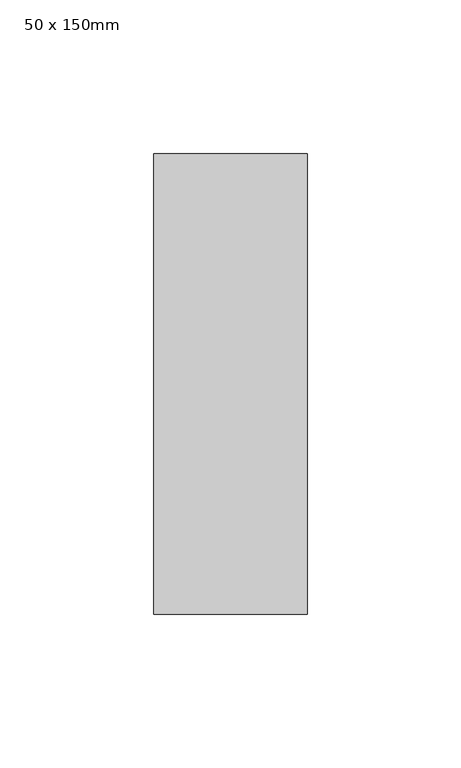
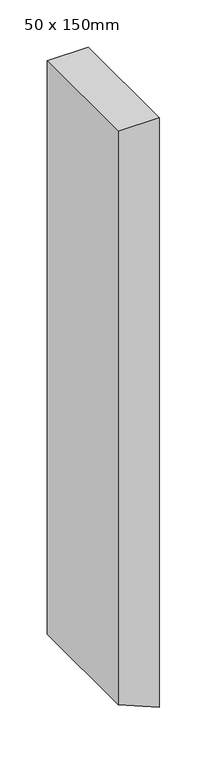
"""IFC4 building model written with IfcOpenShell, lengths in millimetres: member geometry, Prostokątny szpros : 50 x 150mm."""

from ifc_helpers import new_model, si_unit, frame, origin, place, context, project, spatial, polyline, outline, extrude, source, transform, mapped, element, save


def member_50_x_150mm_c072796a(model_context):
    return source(origin(), model_context, "Body", "SweptSolid", [
        extrude(outline(polyline([(0.0, 0.0), (0.0, -50.0), (-739.4291118, -50.0), (-760.1397899, 0.0), (0.0, 0.0)])), frame((0.0, -75.0, 0.0), z_axis=(0.0, 1.0, 0.0), x_axis=(0.0, 0.0, 1.0)), (0.0, 0.0, 1.0), 150.0),
    ])


if __name__ == "__main__":
    model = new_model("IFC4")
    model_context = context("Model", 3, world=origin())
    ifc_project = project(units=[si_unit("LENGTHUNIT", "METRE", prefix="MILLI")], contexts=[model_context])
    site = spatial("IfcSite", under=ifc_project)
    building = spatial("IfcBuilding", under=site)
    placement = place(None, origin())
    member_50_x_150mm_shape = member_50_x_150mm_c072796a(model_context)
    element("IfcMember", 1, ObjectType="Prostokątny szpros : 50 x 150mm", at=placement, inside=building, context=model_context, shape_type="MappedRepresentation", body=[
        mapped(member_50_x_150mm_shape, transform((0.0, 0.0, 0.0), x_axis=(1.0, 0.0, 0.0), y_axis=(0.0, 1.0, 0.0), z_axis=(0.0, 0.0, 1.0))),
    ])
    save(model, "model.ifc")
